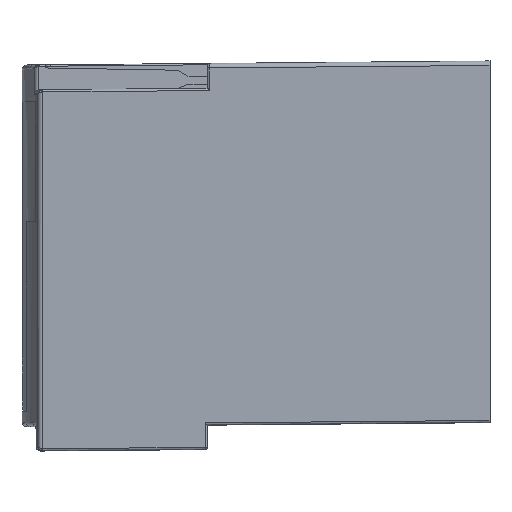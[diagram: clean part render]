
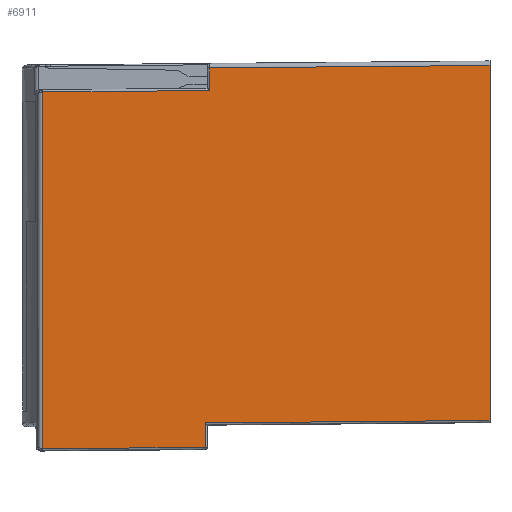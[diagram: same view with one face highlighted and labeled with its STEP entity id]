
A CAD part, left-side view. The second image highlights one B-rep face of the part: STEP entity #6911.
In plain terms, the highlighted planar face has unit normal (-1, 0.018, 0).
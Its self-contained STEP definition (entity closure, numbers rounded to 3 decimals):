
#24 = DIRECTION ( 'NONE',  ( 0.017, 1., -0.009 ) ) ;
#93 = CARTESIAN_POINT ( 'NONE',  ( -23.982, 62.009, -0.996 ) ) ;
#243 = VECTOR ( 'NONE', #24, 1000. ) ;
#279 = CARTESIAN_POINT ( 'NONE',  ( -23.338, 98.911, -6.318 ) ) ;
#415 = EDGE_CURVE ( 'NONE', #2070, #5314, #965, .T. ) ;
#440 = VERTEX_POINT ( 'NONE', #4166 ) ;
#441 = DIRECTION ( 'NONE',  ( 0., 0., -1. ) ) ;
#449 = EDGE_CURVE ( 'NONE', #5065, #3927, #6470, .T. ) ;
#461 = VECTOR ( 'NONE', #441, 1000. ) ;
#478 = VERTEX_POINT ( 'NONE', #3022 ) ;
#624 = ORIENTED_EDGE ( 'NONE', *, *, #1243, .T. ) ;
#646 = AXIS2_PLACEMENT_3D ( 'NONE', #5723, #6321, #2537 ) ;
#843 = ORIENTED_EDGE ( 'NONE', *, *, #1113, .T. ) ;
#965 = LINE ( 'NONE', #4121, #4154 ) ;
#989 = B_SPLINE_CURVE_WITH_KNOTS ( 'NONE', 3,
 ( #4385, #2806, #1299, #4497 ),
 .UNSPECIFIED., .F., .F.,
 ( 4, 4 ),
 ( 0., 0. ),
 .UNSPECIFIED. ) ;
#1069 = DIRECTION ( 'NONE',  ( 0., 0., 1. ) ) ;
#1112 = VECTOR ( 'NONE', #5860, 1000. ) ;
#1113 = EDGE_CURVE ( 'NONE', #478, #2070, #6283, .T. ) ;
#1137 = VERTEX_POINT ( 'NONE', #1678 ) ;
#1154 = EDGE_CURVE ( 'NONE', #440, #1212, #2757, .T. ) ;
#1212 = VERTEX_POINT ( 'NONE', #4452 ) ;
#1243 = EDGE_CURVE ( 'NONE', #1212, #5925, #989, .T. ) ;
#1268 = CARTESIAN_POINT ( 'NONE',  ( -23.341, 98.738, -6.316 ) ) ;
#1299 = CARTESIAN_POINT ( 'NONE',  ( -23.337, 98.962, -85.218 ) ) ;
#1410 = ORIENTED_EDGE ( 'NONE', *, *, #4772, .T. ) ;
#1415 = LINE ( 'NONE', #3182, #243 ) ;
#1678 = CARTESIAN_POINT ( 'NONE',  ( -23.338, 98.911, -6.318 ) ) ;
#1906 = EDGE_CURVE ( 'NONE', #5224, #5065, #1415, .T. ) ;
#1921 = VECTOR ( 'NONE', #3595, 1000. ) ;
#2070 = VERTEX_POINT ( 'NONE', #4896 ) ;
#2172 = CARTESIAN_POINT ( 'NONE',  ( -23.964, 63.009, -80. ) ) ;
#2214 = ORIENTED_EDGE ( 'NONE', *, *, #415, .T. ) ;
#2332 = DIRECTION ( 'NONE',  ( 0.017, 1., -0.009 ) ) ;
#2349 = CARTESIAN_POINT ( 'NONE',  ( -25.064, 0., -78.954 ) ) ;
#2437 = CARTESIAN_POINT ( 'NONE',  ( -23.336, 99.023, -6.327 ) ) ;
#2502 = EDGE_CURVE ( 'NONE', #1137, #440, #4836, .T. ) ;
#2537 = DIRECTION ( 'NONE',  ( -0.017, -1., 0. ) ) ;
#2695 = LINE ( 'NONE', #5329, #1112 ) ;
#2757 = LINE ( 'NONE', #6388, #5109 ) ;
#2806 = CARTESIAN_POINT ( 'NONE',  ( -23.336, 99.02, -85.209 ) ) ;
#2960 = CARTESIAN_POINT ( 'NONE',  ( -23.335, 99.076, -6.344 ) ) ;
#3022 = CARTESIAN_POINT ( 'NONE',  ( -23.964, 63.009, -84.904 ) ) ;
#3070 = CARTESIAN_POINT ( 'NONE',  ( -23.338, 98.903, -85.218 ) ) ;
#3182 = CARTESIAN_POINT ( 'NONE',  ( -23.973, 62.491, -1. ) ) ;
#3279 = FACE_OUTER_BOUND ( 'NONE', #3401, .T. ) ;
#3401 = EDGE_LOOP ( 'NONE', ( #1410, #3412, #5144, #624, #5746, #843, #2214, #6811, #5721, #3695 ) ) ;
#3412 = ORIENTED_EDGE ( 'NONE', *, *, #2502, .T. ) ;
#3547 = EDGE_CURVE ( 'NONE', #5314, #5224, #4133, .T. ) ;
#3595 = DIRECTION ( 'NONE',  ( 0., 0., 1. ) ) ;
#3604 = PLANE ( 'NONE',  #646 ) ;
#3695 = ORIENTED_EDGE ( 'NONE', *, *, #449, .T. ) ;
#3927 = VERTEX_POINT ( 'NONE', #5606 ) ;
#4121 = CARTESIAN_POINT ( 'NONE',  ( -24.212, 48.807, -79.38 ) ) ;
#4133 = LINE ( 'NONE', #6769, #1921 ) ;
#4154 = VECTOR ( 'NONE', #4638, 1000. ) ;
#4166 = CARTESIAN_POINT ( 'NONE',  ( -23.335, 99.076, -6.344 ) ) ;
#4385 = CARTESIAN_POINT ( 'NONE',  ( -23.335, 99.076, -85.191 ) ) ;
#4452 = CARTESIAN_POINT ( 'NONE',  ( -23.335, 99.076, -85.191 ) ) ;
#4461 = VECTOR ( 'NONE', #2332, 1000. ) ;
#4497 = CARTESIAN_POINT ( 'NONE',  ( -23.338, 98.903, -85.218 ) ) ;
#4638 = DIRECTION ( 'NONE',  ( -0.017, -1., 0.009 ) ) ;
#4772 = EDGE_CURVE ( 'NONE', #3927, #1137, #5869, .T. ) ;
#4836 = B_SPLINE_CURVE_WITH_KNOTS ( 'NONE', 3,
 ( #279, #5677, #2437, #2960 ),
 .UNSPECIFIED., .F., .F.,
 ( 4, 4 ),
 ( 0., 0. ),
 .UNSPECIFIED. ) ;
#4896 = CARTESIAN_POINT ( 'NONE',  ( -23.964, 63.009, -79.504 ) ) ;
#4958 = DIRECTION ( 'NONE',  ( 0., 0., -1. ) ) ;
#5021 = VECTOR ( 'NONE', #1069, 1000. ) ;
#5065 = VERTEX_POINT ( 'NONE', #93 ) ;
#5086 = CARTESIAN_POINT ( 'NONE',  ( -25.064, 0., -0.454 ) ) ;
#5109 = VECTOR ( 'NONE', #4958, 1000. ) ;
#5144 = ORIENTED_EDGE ( 'NONE', *, *, #1154, .T. ) ;
#5224 = VERTEX_POINT ( 'NONE', #5086 ) ;
#5314 = VERTEX_POINT ( 'NONE', #2349 ) ;
#5329 = CARTESIAN_POINT ( 'NONE',  ( -24.213, 48.76, -84.78 ) ) ;
#5606 = CARTESIAN_POINT ( 'NONE',  ( -23.982, 62.009, -5.996 ) ) ;
#5677 = CARTESIAN_POINT ( 'NONE',  ( -23.337, 98.968, -6.318 ) ) ;
#5711 = EDGE_CURVE ( 'NONE', #5925, #478, #2695, .T. ) ;
#5721 = ORIENTED_EDGE ( 'NONE', *, *, #1906, .T. ) ;
#5723 = CARTESIAN_POINT ( 'NONE',  ( -24.2, 49.5, 0. ) ) ;
#5746 = ORIENTED_EDGE ( 'NONE', *, *, #5711, .T. ) ;
#5860 = DIRECTION ( 'NONE',  ( -0.017, -1., 0.009 ) ) ;
#5869 = LINE ( 'NONE', #1268, #4461 ) ;
#5925 = VERTEX_POINT ( 'NONE', #3070 ) ;
#6283 = LINE ( 'NONE', #2172, #5021 ) ;
#6321 = DIRECTION ( 'NONE',  ( -1., 0.017, 0. ) ) ;
#6388 = CARTESIAN_POINT ( 'NONE',  ( -23.335, 99.076, 0. ) ) ;
#6470 = LINE ( 'NONE', #6828, #461 ) ;
#6769 = CARTESIAN_POINT ( 'NONE',  ( -25.064, 0., 0. ) ) ;
#6811 = ORIENTED_EDGE ( 'NONE', *, *, #3547, .T. ) ;
#6828 = CARTESIAN_POINT ( 'NONE',  ( -23.982, 62.009, 0. ) ) ;
#6911 = ADVANCED_FACE ( 'cvcbcb', ( #3279 ), #3604, .T. ) ;
